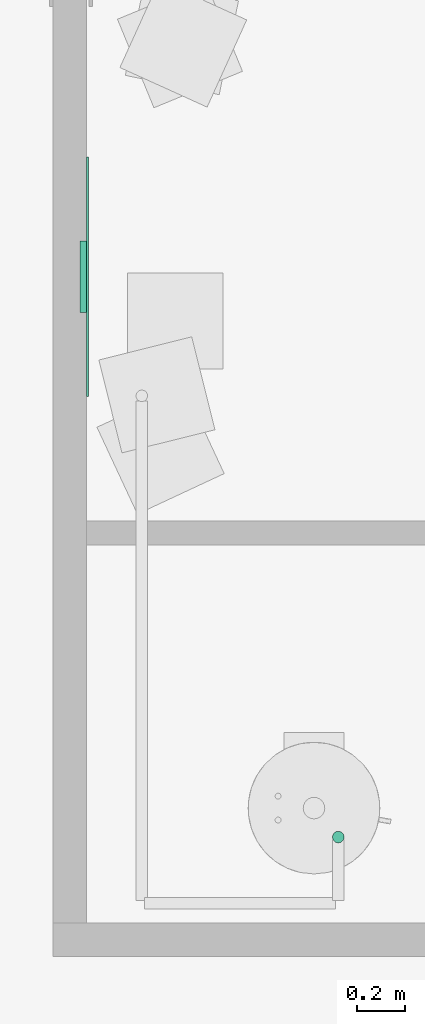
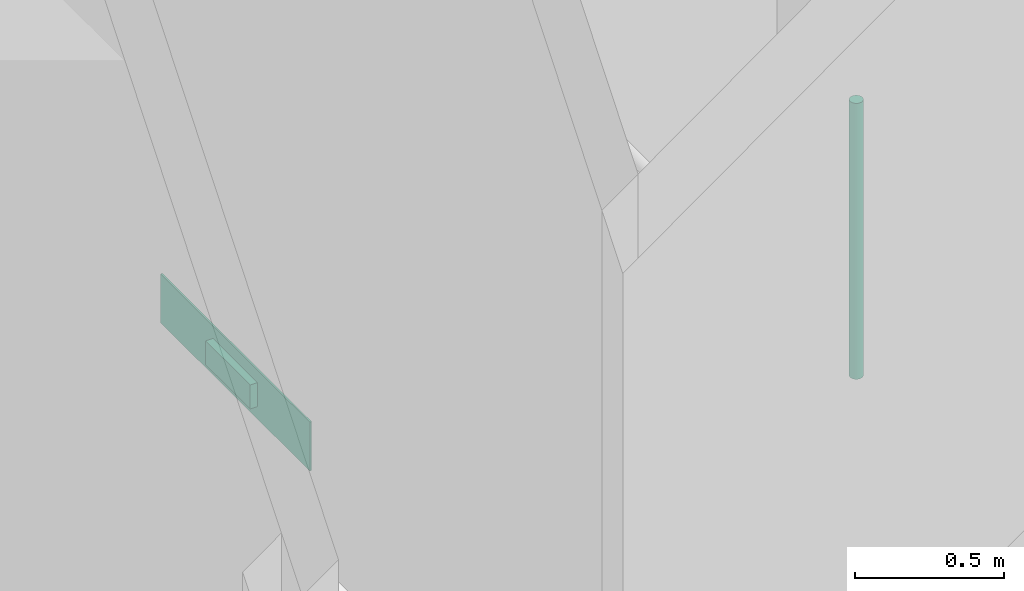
# One storey, part 19 of 72: 1 air terminal, 1 pipe segment.
"""IFC4 building model written with IfcOpenShell, lengths in centimetres."""

from ifc_helpers import new_model, entity, si_unit, converted_unit, derived_unit, direction, frame, origin, place, context, subcontext, project, spatial, arc, indexed_curve, outline, extrude, source, transform, mapped, material, constituent, constituent_set, type_object, type_shapes, element, save


model = new_model("IFC4")

# Units and contexts
model_context = context("Model", 3, precision=0.001, world=origin(), true_north=direction((6.123233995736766e-17, 1.0)))
body_context = subcontext(model_context, "Body", "Model", "MODEL_VIEW")
ifc_project = project(units=[si_unit("LENGTHUNIT", "METRE", prefix="CENTI"), si_unit("AREAUNIT", "SQUARE_METRE"), si_unit("VOLUMEUNIT", "CUBIC_METRE"), derived_unit("THERMALTRANSMITTANCEUNIT", [(si_unit("MASSUNIT", "GRAM", prefix="KILO"), 1), (si_unit("THERMODYNAMICTEMPERATUREUNIT", "KELVIN"), -1), (si_unit("TIMEUNIT", "SECOND"), -3)]), converted_unit("PLANEANGLEUNIT", "DEGREE", entity("IfcPlaneAngleMeasure", 0.017453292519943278), si_unit("PLANEANGLEUNIT", "RADIAN"), dimensions=[0, 0, 0, 0, 0, 0, 0]), derived_unit("MASSDENSITYUNIT", [(si_unit("MASSUNIT", "GRAM", prefix="KILO"), 1), (si_unit("LENGTHUNIT", "METRE"), -3)]), derived_unit("VAPORPERMEABILITYUNIT", [(si_unit("LENGTHUNIT", "METRE"), -1), (si_unit("TIMEUNIT", "SECOND"), 1)]), derived_unit("USERDEFINED", [(si_unit("MASSUNIT", "GRAM", prefix="KILO"), 1), (si_unit("TIMEUNIT", "SECOND"), -3), (si_unit("LENGTHUNIT", "METRE"), 3), (si_unit("ELECTRICCURRENTUNIT", "AMPERE"), -2)]), derived_unit("SPECIFICHEATCAPACITYUNIT", [(si_unit("THERMODYNAMICTEMPERATUREUNIT", "KELVIN"), -1), (si_unit("LENGTHUNIT", "METRE"), 2), (si_unit("TIMEUNIT", "SECOND"), -2)]), derived_unit("THERMALCONDUCTANCEUNIT", [(si_unit("MASSUNIT", "GRAM", prefix="KILO"), 1), (si_unit("THERMODYNAMICTEMPERATUREUNIT", "KELVIN"), -1), (si_unit("TIMEUNIT", "SECOND"), -3), (si_unit("LENGTHUNIT", "METRE"), 1)]), si_unit("PRESSUREUNIT", "PASCAL"), derived_unit("MODULUSOFELASTICITYUNIT", [(si_unit("MASSUNIT", "GRAM", prefix="KILO"), 1), (si_unit("LENGTHUNIT", "METRE"), -1), (si_unit("TIMEUNIT", "SECOND"), -2)]), derived_unit("THERMALEXPANSIONCOEFFICIENTUNIT", [(si_unit("THERMODYNAMICTEMPERATUREUNIT", "KELVIN"), -1)])], contexts=[model_context])

# Site, building, storey, space
site_placement = place(None, origin())
site = spatial("IfcSite", under=ifc_project, at=site_placement, Name="Default", CompositionType="ELEMENT")
building_placement = place(site_placement, origin())
building = spatial("IfcBuilding", under=site, at=building_placement, Name="IDS Escape Game Building", CompositionType="ELEMENT")
storey_placement = place(building_placement, frame((0.0, 0.0, 800.0)))
storey = spatial("IfcBuildingStorey", under=building, at=storey_placement, Name="02_Second Floor", CompositionType="ELEMENT", Elevation=800.0)
space_placement = place(storey_placement, origin())
space = spatial("IfcSpace", under=storey, at=space_placement, Name="86", CompositionType="ELEMENT", PredefinedType="NOTDEFINED")

# Air terminal
ifc_material_1 = material(Name="TB_LVC_referentievlak_00_gen_BERSnl", Category="BE Default")
ifc_constituent_1 = constituent(ifc_material_1, Name="TB_LVC_referentievlak_00_gen_BERSnl", Category="BE Default", fraction=0.00014157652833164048)
ifc_material_2 = material(Name="ARC_FME.h2_staal_00_gen_BERSnl", Category="h - metaal")
ifc_constituent_2 = constituent(ifc_material_2, Name="ARC_FME.h2_staal_00_gen_BERSnl", Category="h - metaal", fraction=0.9998584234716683)
ifc_constituent_set_1 = constituent_set(constituents=[ifc_constituent_1, ifc_constituent_2])
ifc_constituent_3 = constituent(ifc_material_1, Name="BE Referentievlak", Category="BE Default", fraction=0.00014157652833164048)
ifc_constituent_4 = constituent(ifc_material_2, Name="Terminals", Category="h - metaal", fraction=0.9998584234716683)
ifc_constituent_set_2 = constituent_set(constituents=[ifc_constituent_3, ifc_constituent_4])
air_terminal_type = type_object("IfcAirTerminalType", Name="TB_57_AIR_FB_aanzuigrooster - 1 rechthoekige aansluiting - calculated flow_gen_BERSnl:Air Terminal - Exhaust", PredefinedType="GRILLE", material=ifc_constituent_set_2)
shared_shape = source(origin(), body_context, "Body", "SweptSolid", [
    extrude(outline(indexed_curve([(-0.5, -2.0290176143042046e-15), (6.8507733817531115e-16, -0.5000000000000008), (0.5, 2.0290176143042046e-15), (-5.361679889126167e-16, 0.49999999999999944)], segments=[arc(1, 2, 3), arc(3, 4, 1)], self_intersect=False)), frame((0.0, 0.0, 0.0), z_axis=(1.7453292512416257e-05, 0.0, 1.0), x_axis=(0.0, 1.0, 0.0)), (0.0, 0.0, 1.0), 0.09999999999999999),
    extrude(outline(indexed_curve([(-14.900000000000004, -4.9), (14.900000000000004, -4.9), (14.900000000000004, 4.9), (-14.900000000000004, 4.9), (-14.900000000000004, -4.9)], self_intersect=False)), frame((-4.886921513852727e-05, 0.0, -2.7999999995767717)), (0.0, 0.0, 1.0), 2.7999999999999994),
    extrude(outline(indexed_curve([(-50.0, -10.0), (50.0, -10.0), (50.0, 10.0), (-50.0, 10.0), (-50.0, -10.0)], self_intersect=False)), frame((0.0, 0.0, 0.0), z_axis=(0.0, 0.0, 1.0), x_axis=(-1.0, 0.0, 0.0)), (0.0, 0.0, 1.0), 0.6999999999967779),
])
type_shapes(air_terminal_type, [shared_shape])
air_terminal_placement = place(space_placement, frame((745.0, 1559.0, 24.0), z_axis=(1.0, 0.0, 0.0), x_axis=(0.0, 1.0, 0.0)))
element("IfcAirTerminal", 1, at=air_terminal_placement, inside=space, type_object=air_terminal_type, material=ifc_constituent_set_1, Name="TB_57_AIR_FB_aanzuigrooster - 1 rechthoekige aansluiting - calculated flow_gen_BERSnl:Air Terminal - Exhaust", ObjectType="TB_57_AIR_FB_aanzuigrooster - 1 rechthoekige aansluiting - calculated flow_gen_BERSnl:Air Terminal - Exhaust", PredefinedType="GRILLE", context=body_context, shape_type="MappedRepresentation", body=[
    mapped(shared_shape, transform((0.0, 0.0, 0.0), scale=1.0)),
])

# Pipe segment
pipe_segment_type = type_object("IfcPipeSegmentType", Name="Pipe Types:Piping Aluminum", PredefinedType="NOTDEFINED")
pipe_segment_placement = place(storey_placement, origin())
element("IfcPipeSegment", 2, at=pipe_segment_placement, inside=storey, type_object=pipe_segment_type, Name="Pipe Types:Piping Aluminum", ObjectType="Pipe Types:Piping Aluminum", PredefinedType="NOTDEFINED", context=body_context, shape_type="SweptSolid", body=[
    extrude(outline(indexed_curve([(2.412999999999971, 0.0), (1.7062486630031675, 1.7062486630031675), (0.0, 2.412999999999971), (-1.7062486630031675, 1.7062486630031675), (-2.412999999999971, 0.0), (-1.7062486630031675, -1.7062486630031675), (0.0, -2.412999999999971), (1.7062486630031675, -1.7062486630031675)], segments=[arc(1, 2, 3), arc(3, 4, 5), arc(5, 6, 7), arc(7, 8, 1)], self_intersect=False)), frame((850.1500000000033, 1324.9000000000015, 128.0), z_axis=(0.0, 0.0, 1.0), x_axis=(-1.0, 0.0, 0.0)), (0.0, 0.0, 1.0), 112.90000000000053),
])

save(model, "model.ifc")
